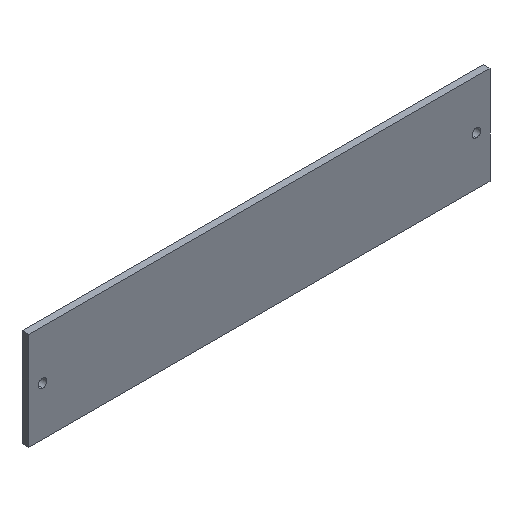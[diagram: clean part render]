
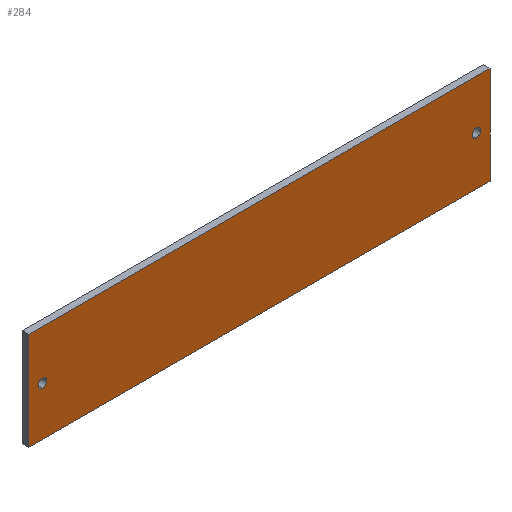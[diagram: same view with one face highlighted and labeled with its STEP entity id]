
A CAD part, isometric view. The second image highlights one B-rep face of the part: STEP entity #284.
In plain terms, the highlighted planar face has unit normal (0, -1, 0).
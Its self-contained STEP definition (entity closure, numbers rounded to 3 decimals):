
#2 = ORIENTED_EDGE ( 'NONE', *, *, #309, .F. ) ;
#12 = CARTESIAN_POINT ( 'NONE',  ( -66., 0., -14. ) ) ;
#13 = CIRCLE ( 'NONE', #246, 1.25 ) ;
#15 = PLANE ( 'NONE',  #287 ) ;
#18 = DIRECTION ( 'NONE',  ( 0., 1., 0. ) ) ;
#23 = DIRECTION ( 'NONE',  ( 0., 0., 1. ) ) ;
#28 = DIRECTION ( 'NONE',  ( 0., 0., 1. ) ) ;
#30 = EDGE_CURVE ( 'NONE', #183, #96, #84, .T. ) ;
#33 = CARTESIAN_POINT ( 'NONE',  ( -66., 0., 14. ) ) ;
#34 = EDGE_CURVE ( 'NONE', #38, #333, #329, .T. ) ;
#38 = VERTEX_POINT ( 'NONE', #80 ) ;
#41 = AXIS2_PLACEMENT_3D ( 'NONE', #321, #166, #23 ) ;
#48 = DIRECTION ( 'NONE',  ( 0., 0., 1. ) ) ;
#60 = EDGE_CURVE ( 'NONE', #96, #210, #174, .T. ) ;
#75 = ORIENTED_EDGE ( 'NONE', *, *, #190, .T. ) ;
#76 = CARTESIAN_POINT ( 'NONE',  ( 66., 0., 14. ) ) ;
#80 = CARTESIAN_POINT ( 'NONE',  ( 62.1, 0., 1.25 ) ) ;
#84 = LINE ( 'NONE', #297, #99 ) ;
#87 = VECTOR ( 'NONE', #123, 1000. ) ;
#96 = VERTEX_POINT ( 'NONE', #33 ) ;
#99 = VECTOR ( 'NONE', #251, 1000. ) ;
#103 = CARTESIAN_POINT ( 'NONE',  ( -62.1, 0., 0. ) ) ;
#118 = AXIS2_PLACEMENT_3D ( 'NONE', #350, #146, #28 ) ;
#123 = DIRECTION ( 'NONE',  ( -1., 0., 0. ) ) ;
#129 = DIRECTION ( 'NONE',  ( 0., 0., 1. ) ) ;
#130 = ORIENTED_EDGE ( 'NONE', *, *, #60, .F. ) ;
#133 = EDGE_LOOP ( 'NONE', ( #192, #342 ) ) ;
#138 = CARTESIAN_POINT ( 'NONE',  ( 62.1, 0., 0. ) ) ;
#146 = DIRECTION ( 'NONE',  ( 0., 1., 0. ) ) ;
#156 = CARTESIAN_POINT ( 'NONE',  ( 66., 0., -14. ) ) ;
#158 = FACE_BOUND ( 'NONE', #133, .T. ) ;
#159 = CARTESIAN_POINT ( 'NONE',  ( -62.1, 0., -1.25 ) ) ;
#166 = DIRECTION ( 'NONE',  ( 0., 1., 0. ) ) ;
#168 = VECTOR ( 'NONE', #302, 1000. ) ;
#174 = LINE ( 'NONE', #277, #168 ) ;
#175 = ORIENTED_EDGE ( 'NONE', *, *, #30, .F. ) ;
#183 = VERTEX_POINT ( 'NONE', #189 ) ;
#189 = CARTESIAN_POINT ( 'NONE',  ( -66., 0., -14. ) ) ;
#190 = EDGE_CURVE ( 'NONE', #333, #38, #13, .T. ) ;
#192 = ORIENTED_EDGE ( 'NONE', *, *, #324, .T. ) ;
#199 = CIRCLE ( 'NONE', #41, 1.25 ) ;
#208 = EDGE_LOOP ( 'NONE', ( #175, #291, #2, #130 ) ) ;
#209 = EDGE_CURVE ( 'NONE', #257, #299, #199, .T. ) ;
#210 = VERTEX_POINT ( 'NONE', #76 ) ;
#214 = CARTESIAN_POINT ( 'NONE',  ( 62.1, 0., -1.25 ) ) ;
#217 = VECTOR ( 'NONE', #263, 1000. ) ;
#220 = VERTEX_POINT ( 'NONE', #264 ) ;
#223 = DIRECTION ( 'NONE',  ( 0., 0., 1. ) ) ;
#233 = LINE ( 'NONE', #261, #217 ) ;
#235 = LINE ( 'NONE', #156, #87 ) ;
#236 = FACE_BOUND ( 'NONE', #317, .T. ) ;
#246 = AXIS2_PLACEMENT_3D ( 'NONE', #138, #18, #48 ) ;
#251 = DIRECTION ( 'NONE',  ( 0., 0., 1. ) ) ;
#257 = VERTEX_POINT ( 'NONE', #159 ) ;
#260 = AXIS2_PLACEMENT_3D ( 'NONE', #103, #296, #223 ) ;
#261 = CARTESIAN_POINT ( 'NONE',  ( 66., 0., 14. ) ) ;
#262 = FACE_OUTER_BOUND ( 'NONE', #208, .T. ) ;
#263 = DIRECTION ( 'NONE',  ( 0., 0., -1. ) ) ;
#264 = CARTESIAN_POINT ( 'NONE',  ( 66., 0., -14. ) ) ;
#271 = EDGE_CURVE ( 'NONE', #220, #183, #235, .T. ) ;
#277 = CARTESIAN_POINT ( 'NONE',  ( 66., 0., 14. ) ) ;
#283 = ORIENTED_EDGE ( 'NONE', *, *, #34, .T. ) ;
#284 = ADVANCED_FACE ( 'NONE', ( #158, #236, #262 ), #15, .F. ) ;
#287 = AXIS2_PLACEMENT_3D ( 'NONE', #12, #316, #129 ) ;
#290 = CARTESIAN_POINT ( 'NONE',  ( -62.1, 0., 1.25 ) ) ;
#291 = ORIENTED_EDGE ( 'NONE', *, *, #271, .F. ) ;
#296 = DIRECTION ( 'NONE',  ( 0., 1., 0. ) ) ;
#297 = CARTESIAN_POINT ( 'NONE',  ( -66., 0., 14. ) ) ;
#299 = VERTEX_POINT ( 'NONE', #290 ) ;
#302 = DIRECTION ( 'NONE',  ( 1., 0., 0. ) ) ;
#306 = CIRCLE ( 'NONE', #260, 1.25 ) ;
#309 = EDGE_CURVE ( 'NONE', #210, #220, #233, .T. ) ;
#316 = DIRECTION ( 'NONE',  ( 0., 1., 0. ) ) ;
#317 = EDGE_LOOP ( 'NONE', ( #283, #75 ) ) ;
#321 = CARTESIAN_POINT ( 'NONE',  ( -62.1, 0., 0. ) ) ;
#324 = EDGE_CURVE ( 'NONE', #299, #257, #306, .T. ) ;
#329 = CIRCLE ( 'NONE', #118, 1.25 ) ;
#333 = VERTEX_POINT ( 'NONE', #214 ) ;
#342 = ORIENTED_EDGE ( 'NONE', *, *, #209, .T. ) ;
#350 = CARTESIAN_POINT ( 'NONE',  ( 62.1, 0., 0. ) ) ;
